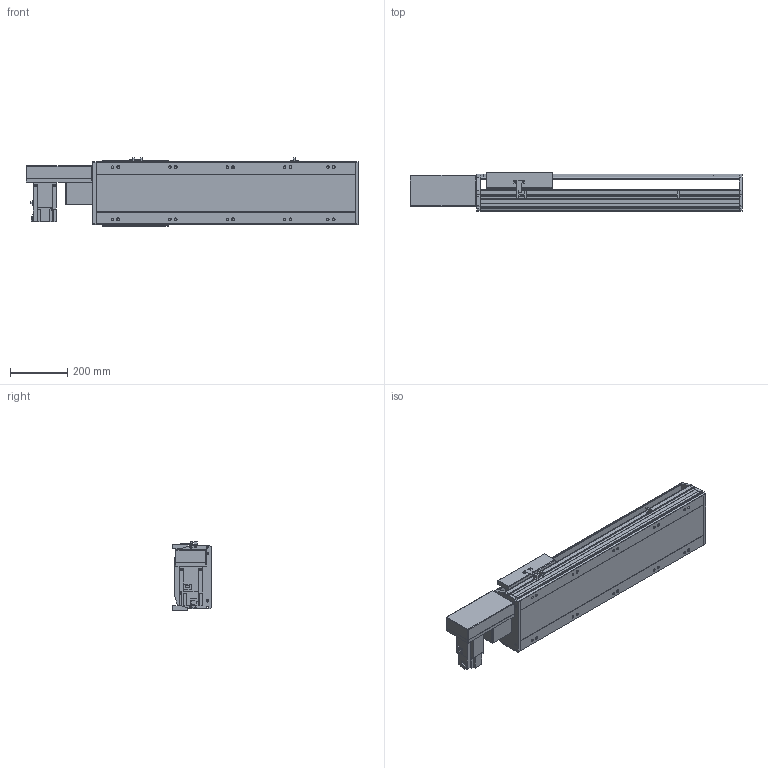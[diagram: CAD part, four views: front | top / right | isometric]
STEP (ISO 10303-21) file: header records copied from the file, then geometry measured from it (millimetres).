
FILE_DESCRIPTION(/* description */ ('STEP AP214'),/* implementation_level */ '2;1');
FILE_NAME(/* name */ 'PBS220-P40-S550-R-T75-C1-N(0)',/* time_stamp */ '2022-06-11T10:00:00+02:00',/* author */ ('License CC BY-ND 4.0'),/* organization */ ('CADENAS'),/* preprocessor_version */ 'ST-DEVELOPER v18.102',/* originating_system */ 'PARTsolutions',/* authorisation */ ' ');
FILE_SCHEMA (('AUTOMOTIVE_DESIGN {1 0 10303 214 3 1 1}'));
Length unit declared in the file: millimetre
Products named in the file (7): PBS220-P40-S550-R-T75-C1-N(0); PBS220_sensor; PBS220_plant; PBS220_sliser; T75-p1; PBS220T-R_motors; PBS220-S550()_body
Assembly tree (8 placements, depth 2):
  PBS220-P40-S550-R-T75-C1-N(0)
    PBS220_sensor  x3
    PBS220_plant
    PBS220_sliser
    T75-p1
    PBS220T-R_motors
    PBS220-S550()_body
Bounding box: 1156 x 134 x 238.5 mm (x, y, z)
Volume: 15398896 mm3; surface area: 1583985.5 mm2
Topology: 8 solids, 8 shells, 878 faces, 2312 edges, 1504 vertices
Faces by surface type: plane 586, cylinder 258, cone 34
Full cylindrical faces by diameter (mm): 2.013 x4, 4.5 x14, 4.917 x4, 6 x7, 6.647 x8, 8 x10, 8.376 x10, 8.5 x10, 10 x6, 14 x10, 38 x2, 40 x1, 70 x1
Entity records: 24693 total; most frequent: CARTESIAN_POINT 4294, DIRECTION 4293, ORIENTED_EDGE 3998, EDGE_CURVE 1999, AXIS2_PLACEMENT_3D 1477, VERTEX_POINT 1368, LINE 1339, VECTOR 1339
